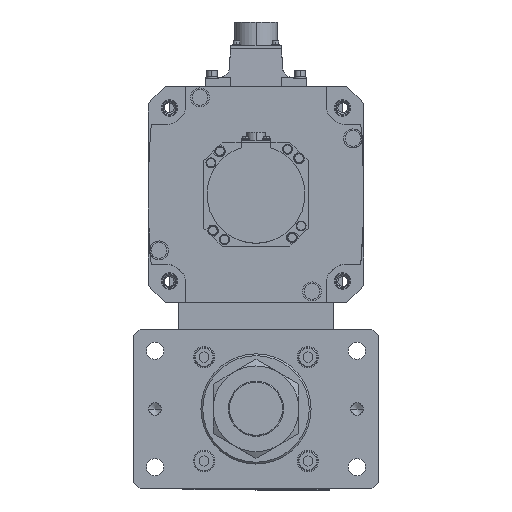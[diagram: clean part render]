
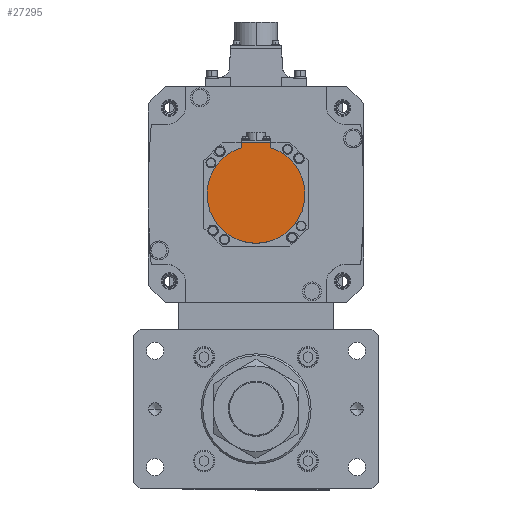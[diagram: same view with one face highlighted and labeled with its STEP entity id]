
A CAD part, top view. The second image highlights one B-rep face of the part: STEP entity #27295.
In plain terms, the highlighted planar face has unit normal (0, 0, 1) as drawn and (0, 0, -1) by its records, which use the part's own axes.
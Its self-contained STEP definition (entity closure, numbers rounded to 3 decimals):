
#950 = CARTESIAN_POINT ( 'NONE',  ( 12., -1.249, -138.5 ) ) ;
#1039 = CARTESIAN_POINT ( 'NONE',  ( -12., -40.329, -138.5 ) ) ;
#5107 = DIRECTION ( 'NONE',  ( 0., 1., 0. ) ) ;
#5155 = LINE ( 'NONE', #950, #9570 ) ;
#5830 = CARTESIAN_POINT ( 'NONE',  ( -12., -42.5, -138.5 ) ) ;
#5834 = VERTEX_POINT ( 'NONE', #6124 ) ;
#6124 = CARTESIAN_POINT ( 'NONE',  ( 40., 0., -138.5 ) ) ;
#6333 = EDGE_CURVE ( 'NONE', #39049, #50318, #5155, .T. ) ;
#6671 = ORIENTED_EDGE ( 'NONE', *, *, #43313, .F. ) ;
#6881 = DIRECTION ( 'NONE',  ( 0., 0., 1. ) ) ;
#9570 = VECTOR ( 'NONE', #21493, 1000. ) ;
#9885 = CIRCLE ( 'NONE', #16121, 40. ) ;
#12415 = CIRCLE ( 'NONE', #51635, 40. ) ;
#12696 = EDGE_LOOP ( 'NONE', ( #35735, #6671, #25637, #32652, #43579, #25749 ) ) ;
#14130 = EDGE_CURVE ( 'NONE', #21710, #25699, #50682, .T. ) ;
#16121 = AXIS2_PLACEMENT_3D ( 'NONE', #49004, #29105, #45289 ) ;
#16467 = CIRCLE ( 'NONE', #25219, 40. ) ;
#17246 = CARTESIAN_POINT ( 'NONE',  ( -12., -38.158, -138.5 ) ) ;
#18161 = CARTESIAN_POINT ( 'NONE',  ( -40., 0., -138.5 ) ) ;
#19130 = CARTESIAN_POINT ( 'NONE',  ( 0., -1.249, -138.5 ) ) ;
#19542 = EDGE_CURVE ( 'NONE', #5834, #49411, #9885, .T. ) ;
#21493 = DIRECTION ( 'NONE',  ( 0., 1., 0. ) ) ;
#21710 = VERTEX_POINT ( 'NONE', #5830 ) ;
#22071 = CARTESIAN_POINT ( 'NONE',  ( 12., -42.5, -138.5 ) ) ;
#22665 = DIRECTION ( 'NONE',  ( 1., 0., 0. ) ) ;
#23159 = DIRECTION ( 'NONE',  ( 1., 0., 0. ) ) ;
#23184 = CARTESIAN_POINT ( 'NONE',  ( 0., 0., -138.5 ) ) ;
#23545 = DIRECTION ( 'NONE',  ( 0., 0., 1. ) ) ;
#25219 = AXIS2_PLACEMENT_3D ( 'NONE', #23184, #23545, #51324 ) ;
#25277 = CARTESIAN_POINT ( 'NONE',  ( 12., -38.158, -138.5 ) ) ;
#25536 = VECTOR ( 'NONE', #27976, 1000. ) ;
#25637 = ORIENTED_EDGE ( 'NONE', *, *, #19542, .F. ) ;
#25699 = VERTEX_POINT ( 'NONE', #17246 ) ;
#25749 = ORIENTED_EDGE ( 'NONE', *, *, #37213, .T. ) ;
#27295 = ADVANCED_FACE ( 'NONE', ( #34518 ), #30020, .F. ) ;
#27976 = DIRECTION ( 'NONE',  ( -1., 0., 0. ) ) ;
#29105 = DIRECTION ( 'NONE',  ( 0., 0., 1. ) ) ;
#29294 = VECTOR ( 'NONE', #5107, 1000. ) ;
#30020 = PLANE ( 'NONE',  #34863 ) ;
#32652 = ORIENTED_EDGE ( 'NONE', *, *, #36324, .F. ) ;
#34518 = FACE_OUTER_BOUND ( 'NONE', #12696, .T. ) ;
#34863 = AXIS2_PLACEMENT_3D ( 'NONE', #19130, #43357, #23159 ) ;
#35735 = ORIENTED_EDGE ( 'NONE', *, *, #14130, .T. ) ;
#36324 = EDGE_CURVE ( 'NONE', #50318, #5834, #12415, .T. ) ;
#36825 = LINE ( 'NONE', #48049, #25536 ) ;
#37213 = EDGE_CURVE ( 'NONE', #39049, #21710, #36825, .T. ) ;
#38796 = CARTESIAN_POINT ( 'NONE',  ( 0., 0., -138.5 ) ) ;
#39049 = VERTEX_POINT ( 'NONE', #22071 ) ;
#43313 = EDGE_CURVE ( 'NONE', #49411, #25699, #16467, .T. ) ;
#43357 = DIRECTION ( 'NONE',  ( 0., 0., 1. ) ) ;
#43579 = ORIENTED_EDGE ( 'NONE', *, *, #6333, .F. ) ;
#45289 = DIRECTION ( 'NONE',  ( 1., 0., 0. ) ) ;
#48049 = CARTESIAN_POINT ( 'NONE',  ( 0., -42.5, -138.5 ) ) ;
#49004 = CARTESIAN_POINT ( 'NONE',  ( 0., 0., -138.5 ) ) ;
#49411 = VERTEX_POINT ( 'NONE', #18161 ) ;
#50318 = VERTEX_POINT ( 'NONE', #25277 ) ;
#50682 = LINE ( 'NONE', #1039, #29294 ) ;
#51324 = DIRECTION ( 'NONE',  ( 1., 0., 0. ) ) ;
#51635 = AXIS2_PLACEMENT_3D ( 'NONE', #38796, #6881, #22665 ) ;
